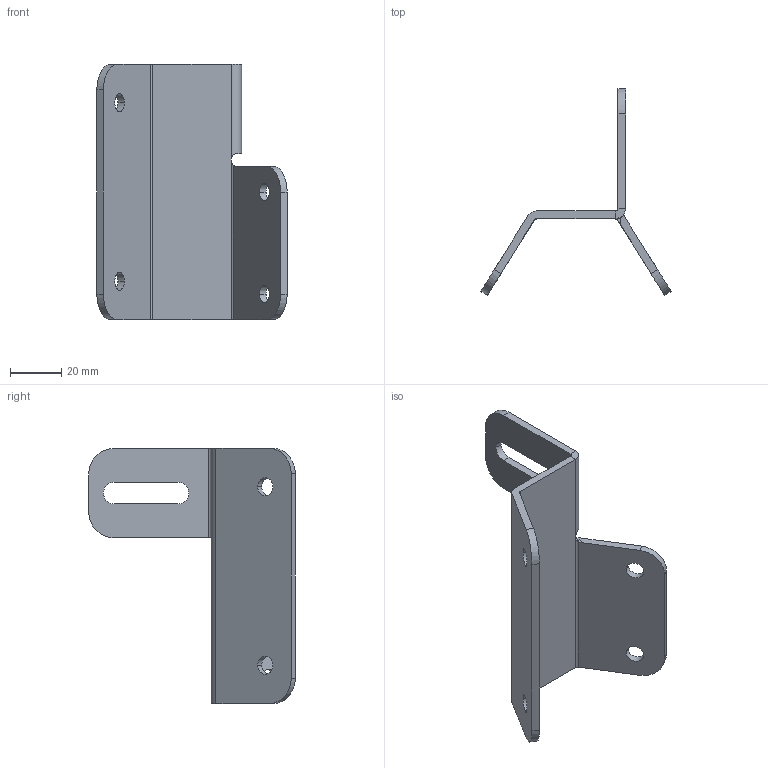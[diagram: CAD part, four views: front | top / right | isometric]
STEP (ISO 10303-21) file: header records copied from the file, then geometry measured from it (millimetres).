
FILE_DESCRIPTION (( 'STEP AP203' ), '1' );
FILE_NAME ('084.106.133.STEP', '2013-01-23T12:20:07', ( 'Alusic' ), ( 'Alusic' ), 'SwSTEP 2.0', 'SolidWorks 2011', '' );
FILE_SCHEMA (( 'CONFIG_CONTROL_DESIGN' ));
Length unit declared in the file: millimetre
Products named in the file (1): 084.106.133
Bounding box: 74.59 x 81 x 100 mm (x, y, z)
Volume: 30894 mm3; surface area: 22547 mm2
Topology: 1 solids, 1 shells, 52 faces, 131 edges, 81 vertices
Faces by surface type: cylinder 26, plane 26
Entity records: 1684 total; most frequent: CARTESIAN_POINT 311, DIRECTION 280, ORIENTED_EDGE 262, EDGE_CURVE 131, AXIS2_PLACEMENT_3D 100, VERTEX_POINT 81, LINE 80, VECTOR 80
